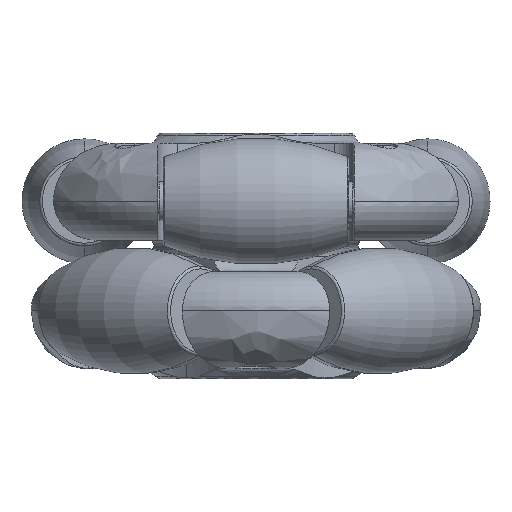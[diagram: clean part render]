
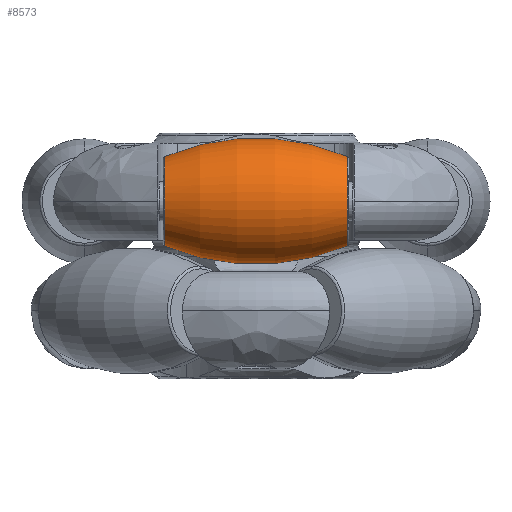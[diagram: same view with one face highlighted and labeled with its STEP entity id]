
A CAD part, front view. The second image highlights one B-rep face of the part: STEP entity #8573.
In plain terms, the highlighted toroidal (fillet/blend) face has major radius 17.55 mm and minor radius 24 mm.
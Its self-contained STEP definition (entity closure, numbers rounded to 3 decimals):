
#20 = ORIENTED_EDGE ( 'NONE', *, *, #5183, .T. ) ;
#245 = DIRECTION ( 'NONE',  ( 0., 0., 1. ) ) ;
#403 = VERTEX_POINT ( 'NONE', #7330 ) ;
#559 = DIRECTION ( 'NONE',  ( -1., 0., 0. ) ) ;
#1744 = CARTESIAN_POINT ( 'NONE',  ( 0., 0., 0. ) ) ;
#1859 = EDGE_CURVE ( 'NONE', #5113, #2019, #1966, .T. ) ;
#1966 = CIRCLE ( 'NONE', #15527, 24. ) ;
#2019 = VERTEX_POINT ( 'NONE', #15656 ) ;
#2110 = ORIENTED_EDGE ( 'NONE', *, *, #1859, .F. ) ;
#2134 = EDGE_LOOP ( 'NONE', ( #20, #9344, #15192, #2110 ) ) ;
#2280 = CIRCLE ( 'NONE', #7554, 4.568 ) ;
#2463 = CARTESIAN_POINT ( 'NONE',  ( -9.316, 0., 0. ) ) ;
#3091 = CIRCLE ( 'NONE', #12713, 4.568 ) ;
#3684 = DIRECTION ( 'NONE',  ( 0., 0., -1. ) ) ;
#3942 = DIRECTION ( 'NONE',  ( 0., 1., 0. ) ) ;
#4540 = TOROIDAL_SURFACE ( 'NONE', #10174, -17.55, 24. ) ;
#5113 = VERTEX_POINT ( 'NONE', #12467 ) ;
#5183 = EDGE_CURVE ( 'NONE', #5113, #11624, #2280, .T. ) ;
#5768 = CARTESIAN_POINT ( 'NONE',  ( 0., 0., -17.55 ) ) ;
#6723 = CIRCLE ( 'NONE', #13561, 24. ) ;
#7018 = DIRECTION ( 'NONE',  ( 0., 0., -1. ) ) ;
#7330 = CARTESIAN_POINT ( 'NONE',  ( -9.316, 0., -4.568 ) ) ;
#7554 = AXIS2_PLACEMENT_3D ( 'NONE', #15105, #7663, #245 ) ;
#7663 = DIRECTION ( 'NONE',  ( -1., 0., 0. ) ) ;
#8573 = ADVANCED_FACE ( 'NONE', ( #12921 ), #4540, .T. ) ;
#9344 = ORIENTED_EDGE ( 'NONE', *, *, #14241, .T. ) ;
#9870 = CARTESIAN_POINT ( 'NONE',  ( 9.316, 0., -4.568 ) ) ;
#10174 = AXIS2_PLACEMENT_3D ( 'NONE', #1744, #559, #14223 ) ;
#11137 = DIRECTION ( 'NONE',  ( 1., 0., 0. ) ) ;
#11405 = CARTESIAN_POINT ( 'NONE',  ( 0., 0., 17.55 ) ) ;
#11624 = VERTEX_POINT ( 'NONE', #9870 ) ;
#12191 = EDGE_CURVE ( 'NONE', #403, #2019, #3091, .T. ) ;
#12467 = CARTESIAN_POINT ( 'NONE',  ( 9.316, 0., 4.568 ) ) ;
#12666 = DIRECTION ( 'NONE',  ( 0., 0., 1. ) ) ;
#12713 = AXIS2_PLACEMENT_3D ( 'NONE', #2463, #11137, #3684 ) ;
#12921 = FACE_OUTER_BOUND ( 'NONE', #2134, .T. ) ;
#13561 = AXIS2_PLACEMENT_3D ( 'NONE', #11405, #3942, #12666 ) ;
#14223 = DIRECTION ( 'NONE',  ( 0., 0., 1. ) ) ;
#14241 = EDGE_CURVE ( 'NONE', #11624, #403, #6723, .T. ) ;
#14449 = DIRECTION ( 'NONE',  ( 0., -1., 0. ) ) ;
#15105 = CARTESIAN_POINT ( 'NONE',  ( 9.316, 0., 0. ) ) ;
#15192 = ORIENTED_EDGE ( 'NONE', *, *, #12191, .T. ) ;
#15527 = AXIS2_PLACEMENT_3D ( 'NONE', #5768, #14449, #7018 ) ;
#15656 = CARTESIAN_POINT ( 'NONE',  ( -9.316, 0., 4.568 ) ) ;
